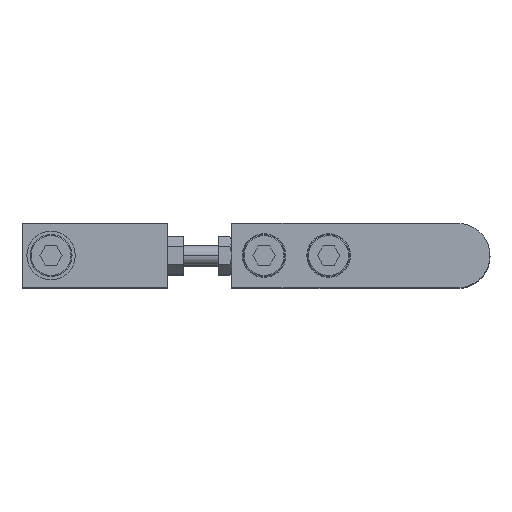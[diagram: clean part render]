
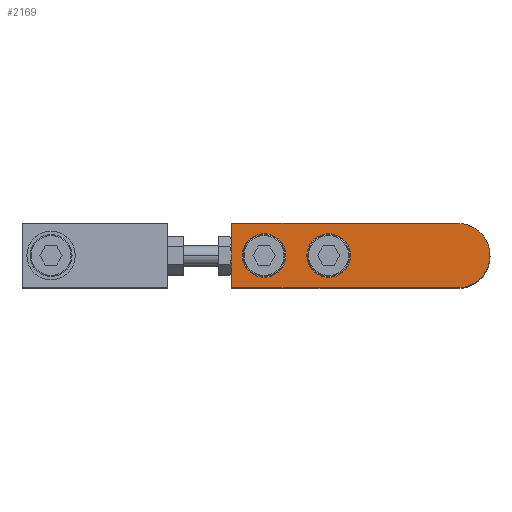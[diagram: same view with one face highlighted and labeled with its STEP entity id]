
A CAD part, top view. The second image highlights one B-rep face of the part: STEP entity #2169.
In plain terms, the highlighted planar face has unit normal (0, 0, 1) as drawn and (0, 0, -1) by its records, which use the part's own axes.
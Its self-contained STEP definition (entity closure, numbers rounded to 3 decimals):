
#93 = CARTESIAN_POINT ( 'NONE',  ( 0., -10., -5. ) ) ;
#213 = CARTESIAN_POINT ( 'NONE',  ( 40., 0., -5. ) ) ;
#215 = EDGE_CURVE ( 'NONE', #7342, #1751, #2541, .T. ) ;
#247 = ORIENTED_EDGE ( 'NONE', *, *, #3575, .F. ) ;
#337 = ORIENTED_EDGE ( 'NONE', *, *, #7392, .F. ) ;
#475 = CARTESIAN_POINT ( 'NONE',  ( 0., 10., -5. ) ) ;
#521 = CIRCLE ( 'NONE', #5854, 6.75 ) ;
#534 = ORIENTED_EDGE ( 'NONE', *, *, #5920, .F. ) ;
#548 = EDGE_CURVE ( 'NONE', #4274, #1676, #2635, .T. ) ;
#651 = ORIENTED_EDGE ( 'NONE', *, *, #4619, .F. ) ;
#735 = CARTESIAN_POINT ( 'NONE',  ( 0., 0., -5. ) ) ;
#836 = CARTESIAN_POINT ( 'NONE',  ( 70., -10., -5. ) ) ;
#1050 = CARTESIAN_POINT ( 'NONE',  ( 40., 0., -5. ) ) ;
#1094 = PLANE ( 'NONE',  #4209 ) ;
#1210 = DIRECTION ( 'NONE',  ( 1., 0., 0. ) ) ;
#1264 = CARTESIAN_POINT ( 'NONE',  ( 53.25, 0., -5. ) ) ;
#1293 = CIRCLE ( 'NONE', #7427, 10. ) ;
#1299 = LINE ( 'NONE', #1539, #5641 ) ;
#1334 = ORIENTED_EDGE ( 'NONE', *, *, #1491, .F. ) ;
#1454 = DIRECTION ( 'NONE',  ( 0., 0., -1. ) ) ;
#1491 = EDGE_CURVE ( 'NONE', #1510, #3851, #521, .T. ) ;
#1510 = VERTEX_POINT ( 'NONE', #5487 ) ;
#1539 = CARTESIAN_POINT ( 'NONE',  ( 0., 10., -5. ) ) ;
#1609 = CIRCLE ( 'NONE', #3290, 6.75 ) ;
#1676 = VERTEX_POINT ( 'NONE', #4691 ) ;
#1751 = VERTEX_POINT ( 'NONE', #836 ) ;
#1856 = AXIS2_PLACEMENT_3D ( 'NONE', #1050, #4645, #5679 ) ;
#1965 = LINE ( 'NONE', #2400, #6461 ) ;
#1977 = EDGE_CURVE ( 'NONE', #3851, #1510, #4239, .T. ) ;
#1985 = DIRECTION ( 'NONE',  ( -1., 0., 0. ) ) ;
#2121 = DIRECTION ( 'NONE',  ( -1., 0., 0. ) ) ;
#2169 = ADVANCED_FACE ( 'NONE', ( #3882, #2336, #3055 ), #1094, .F. ) ;
#2211 = EDGE_CURVE ( 'NONE', #1751, #4567, #1965, .T. ) ;
#2283 = CARTESIAN_POINT ( 'NONE',  ( 0., 0., -5. ) ) ;
#2336 = FACE_BOUND ( 'NONE', #3542, .T. ) ;
#2400 = CARTESIAN_POINT ( 'NONE',  ( 70., 10., -5. ) ) ;
#2541 = LINE ( 'NONE', #6932, #2924 ) ;
#2572 = DIRECTION ( 'NONE',  ( 0., 0., -1. ) ) ;
#2621 = CARTESIAN_POINT ( 'NONE',  ( 0., 0., -5. ) ) ;
#2635 = CIRCLE ( 'NONE', #1856, 6.75 ) ;
#2650 = ORIENTED_EDGE ( 'NONE', *, *, #2211, .F. ) ;
#2922 = DIRECTION ( 'NONE',  ( 0., 0., 1. ) ) ;
#2924 = VECTOR ( 'NONE', #1210, 1000. ) ;
#3020 = CARTESIAN_POINT ( 'NONE',  ( -10., 0., -5. ) ) ;
#3049 = DIRECTION ( 'NONE',  ( -1., 0., 0. ) ) ;
#3055 = FACE_OUTER_BOUND ( 'NONE', #5149, .T. ) ;
#3290 = AXIS2_PLACEMENT_3D ( 'NONE', #213, #2572, #1985 ) ;
#3500 = CARTESIAN_POINT ( 'NONE',  ( 60., 0., -5. ) ) ;
#3542 = EDGE_LOOP ( 'NONE', ( #4271, #651 ) ) ;
#3565 = DIRECTION ( 'NONE',  ( 0., 0., 1. ) ) ;
#3575 = EDGE_CURVE ( 'NONE', #4567, #5740, #1299, .T. ) ;
#3686 = AXIS2_PLACEMENT_3D ( 'NONE', #735, #3565, #4717 ) ;
#3714 = AXIS2_PLACEMENT_3D ( 'NONE', #3500, #4142, #3049 ) ;
#3851 = VERTEX_POINT ( 'NONE', #1264 ) ;
#3882 = FACE_BOUND ( 'NONE', #6189, .T. ) ;
#4002 = ORIENTED_EDGE ( 'NONE', *, *, #215, .F. ) ;
#4142 = DIRECTION ( 'NONE',  ( 0., 0., -1. ) ) ;
#4209 = AXIS2_PLACEMENT_3D ( 'NONE', #2283, #2922, #4745 ) ;
#4239 = CIRCLE ( 'NONE', #3714, 6.75 ) ;
#4263 = ORIENTED_EDGE ( 'NONE', *, *, #1977, .F. ) ;
#4271 = ORIENTED_EDGE ( 'NONE', *, *, #548, .F. ) ;
#4274 = VERTEX_POINT ( 'NONE', #7401 ) ;
#4567 = VERTEX_POINT ( 'NONE', #4612 ) ;
#4612 = CARTESIAN_POINT ( 'NONE',  ( 70., 10., -5. ) ) ;
#4619 = EDGE_CURVE ( 'NONE', #1676, #4274, #1609, .T. ) ;
#4645 = DIRECTION ( 'NONE',  ( 0., 0., -1. ) ) ;
#4691 = CARTESIAN_POINT ( 'NONE',  ( 46.75, 0., -5. ) ) ;
#4715 = VERTEX_POINT ( 'NONE', #3020 ) ;
#4717 = DIRECTION ( 'NONE',  ( 1., 0., 0. ) ) ;
#4745 = DIRECTION ( 'NONE',  ( 1., 0., 0. ) ) ;
#5149 = EDGE_LOOP ( 'NONE', ( #337, #247, #2650, #4002, #534 ) ) ;
#5344 = DIRECTION ( 'NONE',  ( 0., 1., 0. ) ) ;
#5487 = CARTESIAN_POINT ( 'NONE',  ( 66.75, 0., -5. ) ) ;
#5498 = DIRECTION ( 'NONE',  ( 0., 0., 1. ) ) ;
#5641 = VECTOR ( 'NONE', #2121, 1000. ) ;
#5679 = DIRECTION ( 'NONE',  ( -1., 0., 0. ) ) ;
#5740 = VERTEX_POINT ( 'NONE', #475 ) ;
#5854 = AXIS2_PLACEMENT_3D ( 'NONE', #6071, #1454, #6042 ) ;
#5920 = EDGE_CURVE ( 'NONE', #4715, #7342, #7015, .T. ) ;
#6042 = DIRECTION ( 'NONE',  ( -1., 0., 0. ) ) ;
#6071 = CARTESIAN_POINT ( 'NONE',  ( 60., 0., -5. ) ) ;
#6189 = EDGE_LOOP ( 'NONE', ( #4263, #1334 ) ) ;
#6461 = VECTOR ( 'NONE', #5344, 1000. ) ;
#6932 = CARTESIAN_POINT ( 'NONE',  ( 0., -10., -5. ) ) ;
#7015 = CIRCLE ( 'NONE', #3686, 10. ) ;
#7182 = DIRECTION ( 'NONE',  ( 1., 0., 0. ) ) ;
#7342 = VERTEX_POINT ( 'NONE', #93 ) ;
#7392 = EDGE_CURVE ( 'NONE', #5740, #4715, #1293, .T. ) ;
#7401 = CARTESIAN_POINT ( 'NONE',  ( 33.25, 0., -5. ) ) ;
#7427 = AXIS2_PLACEMENT_3D ( 'NONE', #2621, #5498, #7182 ) ;
